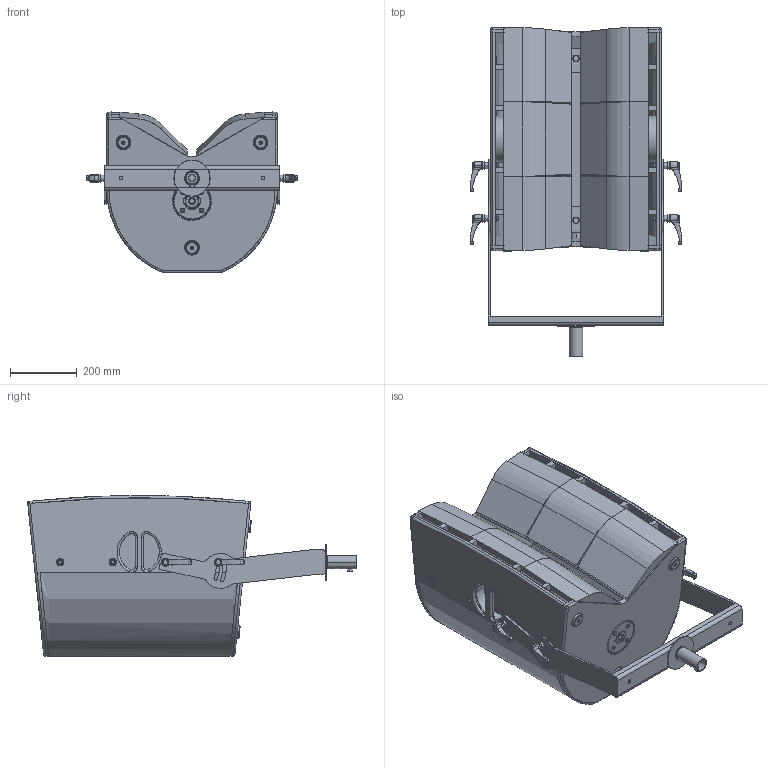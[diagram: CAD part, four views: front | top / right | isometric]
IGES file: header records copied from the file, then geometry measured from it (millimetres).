
Start section: SolidWorks IGES file using analytic representation for surfaces
Global section: file name: C:\Dokumente und Einstellungen\PC_Fabian\Desktop\G-Serie\G3_Bracket-ver_01.IGS; native system: SolidWorks 2009; preprocessor: SolidWorks 2009; author: PC_Fabian; date: 121016.131930; units: millimetre
Bounding box: 633.25 x 986.96 x 482.84 mm (x, y, z)
Surface area: 4164963.5 mm2 (no closed solid volume)
Topology: 0 solids, 0 shells, 1112 faces, 15329 edges, 15325 vertices
Faces by surface type: revolution 571, bspline 541
